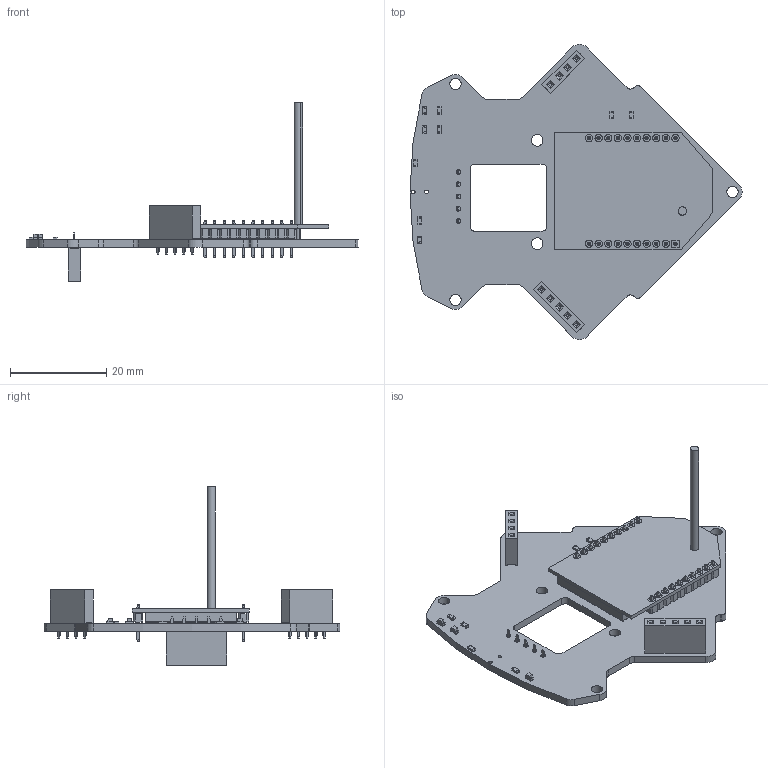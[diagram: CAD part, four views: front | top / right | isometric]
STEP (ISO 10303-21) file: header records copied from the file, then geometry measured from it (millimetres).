
FILE_DESCRIPTION(('KiCad electronic assembly'),'2;1');
FILE_NAME('xbee-gyro20220207.step','2022-02-23T15:35:57',('Pcbnew'),( 'Kicad'),'Open CASCADE STEP processor 7.5','KiCad to STEP converter' ,'Unknown');
FILE_SCHEMA(('AUTOMOTIVE_DESIGN { 1 0 10303 214 1 1 1 1 }'));
Length unit declared in the file: millimetre
Products named in the file (16): xbee-gyro20220207 1; LED_0603_1608Metric; SOLID; R_0603_1608Metric; XBPro-whip; COMPOUND; PinSocket_1x05_P2.54mm_Vertical; SOT-89-3; C_0603_1608Metric; PinSocket_1x04_P2.54mm_Vertical; xbee-gyro20220207 PCB
Assembly tree (24 placements, depth 3):
  xbee-gyro20220207 1
    LED_0603_1608Metric  x3
      SOLID
    R_0603_1608Metric  x7
      SOLID
    XBPro-whip
      COMPOUND
    PinSocket_1x05_P2.54mm_Vertical  x2
      SOLID
    SOT-89-3
      SOLID
    C_0603_1608Metric
      SOLID
    PinSocket_1x04_P2.54mm_Vertical
      SOLID
    xbee-gyro20220207 PCB
Bounding box: 69.16 x 61.59 x 37.16 mm (x, y, z)
Volume: 6295.6 mm3; surface area: 10258.8 mm2
Topology: 39 solids, 39 shells, 2097 faces, 5032 edges, 3182 vertices
Faces by surface type: bspline 2016, cylinder 61, plane 20
Full cylindrical faces by diameter (mm): 0.75 x2, 0.8 x20, 1 x14, 2.4 x5
Entity records: 95746 total; most frequent: CARTESIAN_POINT 39083, B_SPLINE_CURVE_WITH_KNOTS 9851, ORIENTED_EDGE 7868, PCURVE 7868, DEFINITIONAL_REPRESENTATION 7868, EDGE_CURVE 3934, SURFACE_CURVE 3892, VERTEX_POINT 2470
